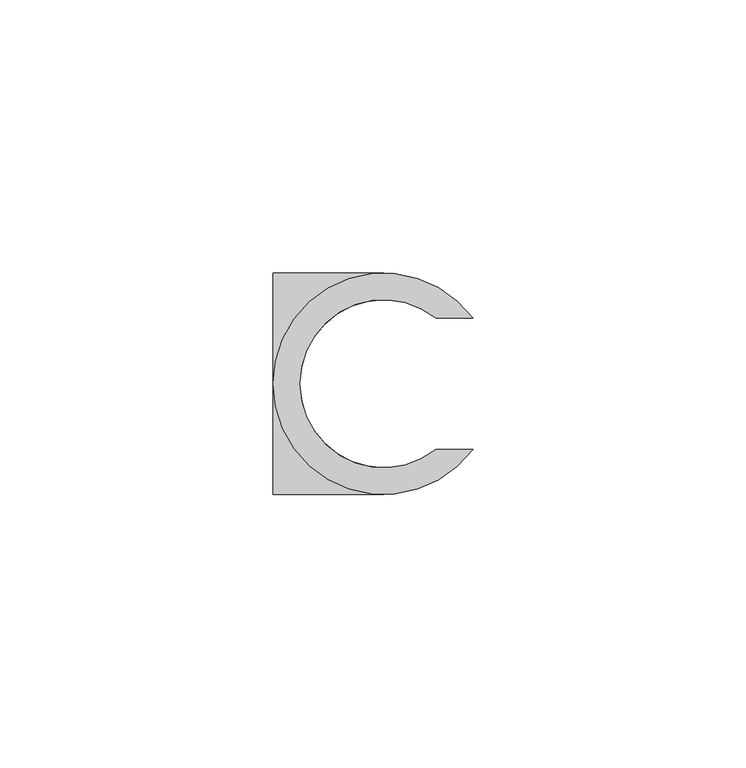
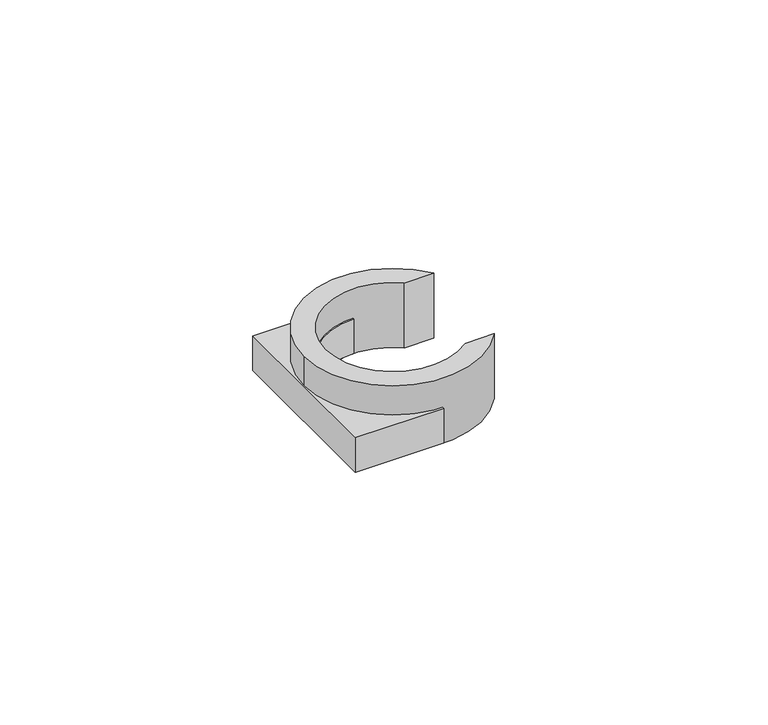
"""IFC4 building model written with IfcOpenShell, lengths in millimetres: valve geometry, EGB_VASEN_ PPR_Abrazadera simple WXR710 : Abrazadera simple WXR710."""

from ifc_helpers import new_model, si_unit, point, origin, origin_with_axes, origin_2d, place, context, project, spatial, polyline, circle_curve, trimmed, segment, composite_curve, outline, extrude, source, transform, mapped, element, save


def valve_71c130d3(model_context):
    return source(origin(), model_context, "Body", "SweptSolid", [
        extrude(outline(composite_curve([segment(polyline([(0.0, -20.25), (-20.25, -20.25), (-20.25, 20.25), (0.0, 20.25), (0.0, 15.375)]), True, "CONTINUOUS"), segment(trimmed(circle_curve(origin_2d(), 15.375), [point((0.0, 15.375))], [point((-15.375, 0.0))], True, "CARTESIAN"), True, "CONTINUOUS"), segment(trimmed(circle_curve(origin_2d(), 15.375), [point((-15.375, 0.0))], [point((0.0, -15.375))], True, "CARTESIAN"), True, "CONTINUOUS"), segment(polyline([(0.0, -15.375), (0.0, -20.25)]), True, "CONTINUOUS")], self_intersect=False)), origin_with_axes(), (0.0, 0.0, 1.0), 8.35),
        extrude(outline(composite_curve([segment(trimmed(circle_curve(origin_2d(), 20.25), [point((-20.25, 0.0))], [point((16.2893094, 12.03))], False, "CARTESIAN"), True, "CONTINUOUS"), segment(polyline([(16.2893094, 12.03), (9.5744308, 12.03)]), True, "CONTINUOUS"), segment(trimmed(circle_curve(origin_2d(), 15.375), [point((9.5744308, 12.03))], [point((-15.375, 0.0))], True, "CARTESIAN"), True, "CONTINUOUS"), segment(trimmed(circle_curve(origin_2d(), 15.375), [point((-15.375, 0.0))], [point((9.5744308, -12.03))], True, "CARTESIAN"), True, "CONTINUOUS"), segment(polyline([(9.5744308, -12.03), (16.2893094, -12.03)]), True, "CONTINUOUS"), segment(trimmed(circle_curve(origin_2d(), 20.25), [point((16.2893094, -12.03))], [point((-20.25, 0.0))], False, "CARTESIAN"), True, "CONTINUOUS")], self_intersect=False)), origin_with_axes(), (0.0, 0.0, 1.0), 15.7),
    ])


if __name__ == "__main__":
    model = new_model("IFC4")
    model_context = context("Model", 3, world=origin())
    ifc_project = project(units=[si_unit("LENGTHUNIT", "METRE", prefix="MILLI")], contexts=[model_context])
    site = spatial("IfcSite", under=ifc_project)
    building = spatial("IfcBuilding", under=site)
    placement = place(None, origin())
    valve_shape = valve_71c130d3(model_context)
    element("IfcValve", 1, ObjectType="EGB_VASEN_ PPR_Abrazadera simple WXR710 : Abrazadera simple WXR710", at=placement, inside=building, context=model_context, shape_type="MappedRepresentation", body=[
        mapped(valve_shape, transform((0.0, 0.0, 0.0), x_axis=(1.0, 0.0, 0.0), y_axis=(0.0, 1.0, 0.0), z_axis=(0.0, 0.0, 1.0))),
    ])
    save(model, "model.ifc")
